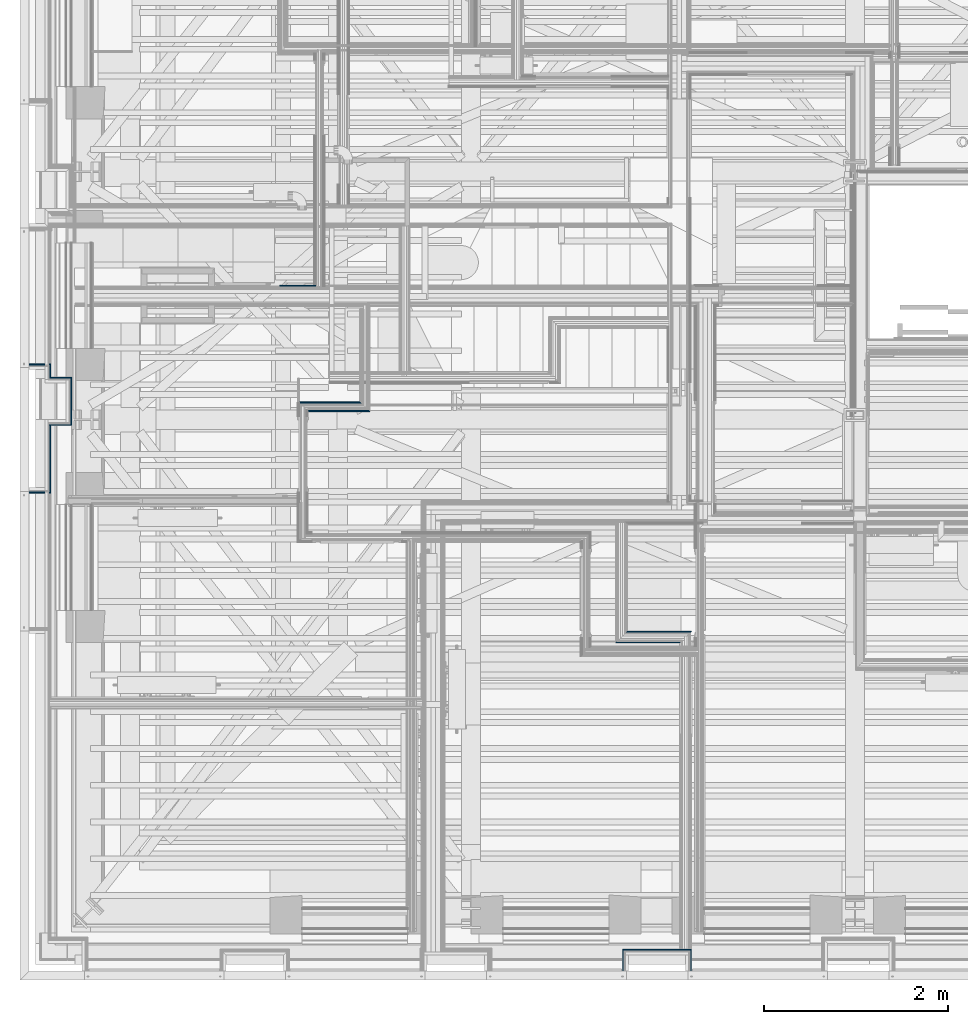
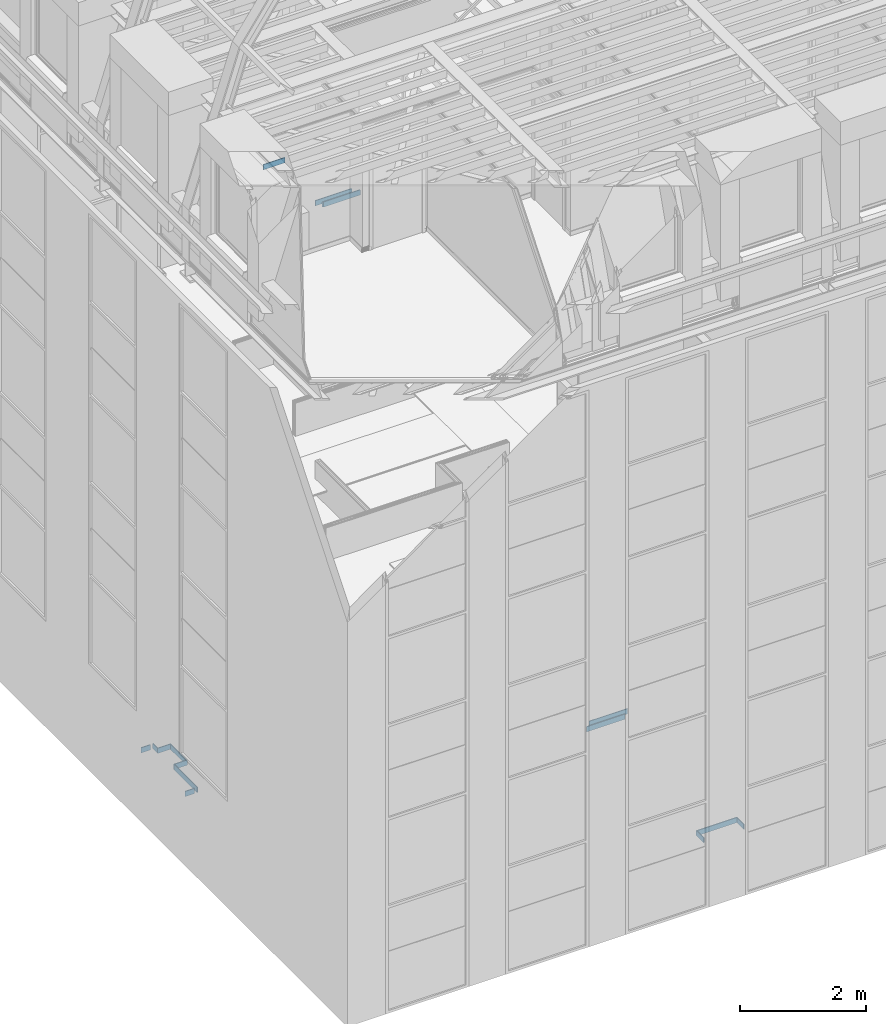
# One storey, part 64 of 183: 16 building element parts, 13 elements without a shape of their own.
"""IFC2X3 building model written with IfcOpenShell, lengths in metres."""

from ifc_helpers import new_model, entity, si_unit, converted_unit, derived_unit, money_unit, direction, frame, frame_2d, origin_with_axes, place, context, subcontext, project, spatial, polyline, rectangle, outline, extrude, material, type_object, element, aggregate, save


model = new_model("IFC2X3")

# Units and contexts
model_context = context("Model", 3, precision=1e-05, world=origin_with_axes(), true_north=direction((0.0, 1.0)))
body_context = subcontext(model_context, "Body", "Model", "MODEL_VIEW", scale=1.0)
ifc_project = project(units=[si_unit("LENGTHUNIT", "METRE"), si_unit("AREAUNIT", "SQUARE_METRE"), si_unit("VOLUMEUNIT", "CUBIC_METRE"), si_unit("ABSORBEDDOSEUNIT", "GRAY"), si_unit("AMOUNTOFSUBSTANCEUNIT", "MOLE"), si_unit("DOSEEQUIVALENTUNIT", "SIEVERT"), si_unit("ELECTRICCAPACITANCEUNIT", "FARAD"), si_unit("ELECTRICCHARGEUNIT", "COULOMB"), si_unit("ELECTRICCONDUCTANCEUNIT", "SIEMENS"), si_unit("ELECTRICCURRENTUNIT", "AMPERE"), si_unit("ELECTRICRESISTANCEUNIT", "OHM"), si_unit("ELECTRICVOLTAGEUNIT", "VOLT"), si_unit("ENERGYUNIT", "JOULE"), si_unit("FORCEUNIT", "NEWTON"), si_unit("FREQUENCYUNIT", "HERTZ"), si_unit("ILLUMINANCEUNIT", "LUX"), si_unit("INDUCTANCEUNIT", "HENRY"), si_unit("LUMINOUSFLUXUNIT", "LUMEN"), si_unit("LUMINOUSINTENSITYUNIT", "CANDELA"), si_unit("MAGNETICFLUXDENSITYUNIT", "TESLA"), si_unit("MAGNETICFLUXUNIT", "WEBER"), si_unit("MASSUNIT", "GRAM"), converted_unit("PLANEANGLEUNIT", "degree", entity("IfcReal", 0.0174532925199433), si_unit("PLANEANGLEUNIT", "RADIAN"), dimensions=[0, 0, 0, 0, 0, 0, 0]), si_unit("POWERUNIT", "WATT"), si_unit("PRESSUREUNIT", "PASCAL"), si_unit("RADIOACTIVITYUNIT", "BECQUEREL"), si_unit("SOLIDANGLEUNIT", "STERADIAN"), si_unit("THERMODYNAMICTEMPERATUREUNIT", "KELVIN"), si_unit("TIMEUNIT", "SECOND"), derived_unit("ACCELERATIONUNIT", [(si_unit("LENGTHUNIT", "METRE"), 1), (si_unit("TIMEUNIT", "SECOND"), -2)]), derived_unit("ANGULARVELOCITYUNIT", [(converted_unit("PLANEANGLEUNIT", "degree", entity("IfcReal", 0.0174532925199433), si_unit("PLANEANGLEUNIT", "RADIAN"), dimensions=[0, 0, 0, 0, 0, 0, 0]), 1), (si_unit("TIMEUNIT", "SECOND"), -1)]), derived_unit("CURVATUREUNIT", [(converted_unit("PLANEANGLEUNIT", "degree", entity("IfcReal", 0.0174532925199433), si_unit("PLANEANGLEUNIT", "RADIAN"), dimensions=[0, 0, 0, 0, 0, 0, 0]), 1), (si_unit("LENGTHUNIT", "METRE"), -1)]), derived_unit("DYNAMICVISCOSITYUNIT", [(si_unit("PRESSUREUNIT", "PASCAL"), 1), (si_unit("TIMEUNIT", "SECOND"), 1)]), derived_unit("HEATFLUXDENSITYUNIT", [(si_unit("POWERUNIT", "WATT"), 1), (si_unit("LENGTHUNIT", "METRE"), -2)]), derived_unit("HEATINGVALUEUNIT", [(si_unit("ENERGYUNIT", "JOULE"), 1), (si_unit("MASSUNIT", "GRAM"), -1)]), derived_unit("INTEGERCOUNTRATEUNIT", [(si_unit("TIMEUNIT", "SECOND"), -1)]), derived_unit("IONCONCENTRATIONUNIT", [(si_unit("MASSUNIT", "GRAM"), 1), (si_unit("VOLUMEUNIT", "CUBIC_METRE"), -1)]), derived_unit("ISOTHERMALMOISTURECAPACITYUNIT", [(si_unit("VOLUMEUNIT", "CUBIC_METRE"), 1), (si_unit("MASSUNIT", "GRAM"), -1)]), derived_unit("KINEMATICVISCOSITYUNIT", [(si_unit("AREAUNIT", "SQUARE_METRE"), 1), (si_unit("TIMEUNIT", "SECOND"), -1)]), derived_unit("LINEARFORCEUNIT", [(si_unit("FORCEUNIT", "NEWTON"), 1), (si_unit("LENGTHUNIT", "METRE"), -1)]), derived_unit("LINEARMOMENTUNIT", [(si_unit("FORCEUNIT", "NEWTON"), 1), (si_unit("LENGTHUNIT", "METRE"), -1)]), derived_unit("LINEARSTIFFNESSUNIT", [(si_unit("FORCEUNIT", "NEWTON"), 1), (si_unit("LENGTHUNIT", "METRE"), -1)]), derived_unit("LINEARVELOCITYUNIT", [(si_unit("LENGTHUNIT", "METRE"), 1), (si_unit("TIMEUNIT", "SECOND"), -1)]), derived_unit("LUMINOUSINTENSITYDISTRIBUTIONUNIT", [(si_unit("LUMINOUSINTENSITYUNIT", "CANDELA"), 1), (si_unit("LUMINOUSFLUXUNIT", "LUMEN"), -1)]), derived_unit("MASSDENSITYUNIT", [(si_unit("MASSUNIT", "GRAM"), 1), (si_unit("VOLUMEUNIT", "CUBIC_METRE"), -1)]), derived_unit("MASSFLOWRATEUNIT", [(si_unit("MASSUNIT", "GRAM"), 1), (si_unit("TIMEUNIT", "SECOND"), -1)]), derived_unit("MASSPERLENGTHUNIT", [(si_unit("MASSUNIT", "GRAM"), 1), (si_unit("LENGTHUNIT", "METRE"), -1)]), derived_unit("MODULUSOFELASTICITYUNIT", [(si_unit("FORCEUNIT", "NEWTON"), 1), (si_unit("AREAUNIT", "SQUARE_METRE"), -1)]), derived_unit("MODULUSOFLINEARSUBGRADEREACTIONUNIT", [(si_unit("FORCEUNIT", "NEWTON"), 1), (si_unit("LENGTHUNIT", "METRE"), -2)]), derived_unit("MODULUSOFROTATIONALSUBGRADEREACTIONUNIT", [(si_unit("FORCEUNIT", "NEWTON"), 1), (si_unit("LENGTHUNIT", "METRE"), 1)]), derived_unit("MODULUSOFSUBGRADEREACTIONUNIT", [(si_unit("FORCEUNIT", "NEWTON"), 1), (si_unit("VOLUMEUNIT", "CUBIC_METRE"), -1)]), derived_unit("MOISTUREDIFFUSIVITYUNIT", [(si_unit("VOLUMEUNIT", "CUBIC_METRE"), 1), (si_unit("TIMEUNIT", "SECOND"), -1)]), derived_unit("MOLECULARWEIGHTUNIT", [(si_unit("MASSUNIT", "GRAM"), 1), (si_unit("AMOUNTOFSUBSTANCEUNIT", "MOLE"), -1)]), derived_unit("PLANARFORCEUNIT", [(si_unit("FORCEUNIT", "NEWTON"), 1), (si_unit("LENGTHUNIT", "METRE"), -2)]), derived_unit("ROTATIONALFREQUENCYUNIT", [(si_unit("TIMEUNIT", "SECOND"), -1)]), derived_unit("ROTATIONALMASSUNIT", [(si_unit("MASSUNIT", "GRAM"), 1), (si_unit("LENGTHUNIT", "METRE"), 2)]), derived_unit("ROTATIONALSTIFFNESSUNIT", [(si_unit("FORCEUNIT", "NEWTON"), 1), (si_unit("LENGTHUNIT", "METRE"), 1), (converted_unit("PLANEANGLEUNIT", "degree", entity("IfcReal", 0.0174532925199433), si_unit("PLANEANGLEUNIT", "RADIAN"), dimensions=[0, 0, 0, 0, 0, 0, 0]), -1)]), derived_unit("SECTIONAREAINTEGRALUNIT", [(si_unit("LENGTHUNIT", "METRE"), 5)]), derived_unit("SECTIONMODULUSUNIT", [(si_unit("LENGTHUNIT", "METRE"), 3)]), derived_unit("SHEARMODULUSUNIT", [(si_unit("FORCEUNIT", "NEWTON"), 1), (si_unit("AREAUNIT", "SQUARE_METRE"), -1)]), derived_unit("SOUNDPOWERUNIT", [(si_unit("ENERGYUNIT", "JOULE"), 1), (si_unit("TIMEUNIT", "SECOND"), -1)]), derived_unit("SPECIFICHEATCAPACITYUNIT", [(si_unit("FORCEUNIT", "NEWTON"), 1), (si_unit("MASSUNIT", "GRAM"), -1), (si_unit("THERMODYNAMICTEMPERATUREUNIT", "KELVIN"), -1)]), derived_unit("TEMPERATUREGRADIENTUNIT", [(si_unit("THERMODYNAMICTEMPERATUREUNIT", "KELVIN"), 1), (si_unit("LENGTHUNIT", "METRE"), -1)]), derived_unit("THERMALADMITTANCEUNIT", [(si_unit("POWERUNIT", "WATT"), 1), (si_unit("AREAUNIT", "SQUARE_METRE"), -1), (si_unit("THERMODYNAMICTEMPERATUREUNIT", "KELVIN"), -1)]), derived_unit("THERMALCONDUCTANCEUNIT", [(si_unit("POWERUNIT", "WATT"), 1), (si_unit("LENGTHUNIT", "METRE"), -1), (si_unit("THERMODYNAMICTEMPERATUREUNIT", "KELVIN"), -1)]), derived_unit("THERMALEXPANSIONCOEFFICIENTUNIT", [(si_unit("THERMODYNAMICTEMPERATUREUNIT", "KELVIN"), -1)]), derived_unit("THERMALRESISTANCEUNIT", [(si_unit("AREAUNIT", "SQUARE_METRE"), 1), (si_unit("POWERUNIT", "WATT"), -1)]), derived_unit("THERMALTRANSMITTANCEUNIT", [(si_unit("POWERUNIT", "WATT"), 1), (si_unit("AREAUNIT", "SQUARE_METRE"), -1), (si_unit("THERMODYNAMICTEMPERATUREUNIT", "KELVIN"), -1)]), derived_unit("TORQUEUNIT", [(si_unit("FORCEUNIT", "NEWTON"), 1), (si_unit("LENGTHUNIT", "METRE"), 1)]), derived_unit("VAPORPERMEABILITYUNIT", [(si_unit("MASSUNIT", "GRAM"), 1), (si_unit("TIMEUNIT", "SECOND"), -1)]), derived_unit("VOLUMETRICFLOWRATEUNIT", [(si_unit("VOLUMEUNIT", "CUBIC_METRE"), 1), (si_unit("TIMEUNIT", "SECOND"), -1)]), derived_unit("WARPINGCONSTANTUNIT", [(si_unit("LENGTHUNIT", "METRE"), 6)]), derived_unit("WARPINGMOMENTUNIT", [(si_unit("FORCEUNIT", "NEWTON"), 1), (si_unit("LENGTHUNIT", "METRE"), 2)]), money_unit("GBP")], contexts=[model_context])

# Site, building, storey
site_placement = place(None, origin_with_axes())
site = spatial("IfcSite", under=ifc_project, at=site_placement, Name="Site", CompositionType="ELEMENT")
building_placement = place(site_placement, origin_with_axes())
building = spatial("IfcBuilding", under=site, at=building_placement, Name="Building01", CompositionType="ELEMENT")
storey_placement = place(building_placement, frame((0.0, 0.0, 5.15), z_axis=(0.0, 0.0, 1.0), x_axis=(1.0, 0.0, 0.0)))
storey = spatial("IfcBuildingStorey", under=building, at=storey_placement, Name="1F", CompositionType="ELEMENT", Elevation=5.15)

# Wall, building element part
wall_type_1 = type_object("IfcWallType", Name="SHE_A-Walls_Type06d_ExternalWallInsulation_48mm", PredefinedType="NOTDEFINED")
wall_1_placement = place(storey_placement, frame((6.623, 0.1, 0.0), z_axis=(0.0, 0.0, 1.0), x_axis=(0.0, 1.0, 0.0)))
wall_1 = element("IfcWall", 1, at=wall_1_placement, inside=storey, type_object=wall_type_1, Name="6D", ObjectType="SHE_A-Walls_Type06d_ExternalWallInsulation_48mm")
ifc_material = material(Name="A_BSUK_Walls_Timber")
building_element_part_1_placement = place(wall_1_placement, origin_with_axes())
building_element_part_1 = element("IfcBuildingElementPart", 2, at=building_element_part_1_placement, material=ifc_material, Name="3", context=body_context, shape_type="SweptSolid", body=[
    extrude(outline(polyline([(0.233, 0.063), (0.0, 0.063), (0.0, 0.048), (0.218, 0.048), (0.233, 0.063)])), frame((0.0, 0.0, 0.015), z_axis=(0.0, 0.0, 1.0), x_axis=(1.0, 0.0, 0.0)), (0.0, 0.0, 1.0), 0.1),
])
aggregate(wall_1, [building_element_part_1])

wall_2_placement = place(storey_placement, frame((7.247, 0.27, 0.0), z_axis=(0.0, 0.0, 1.0), x_axis=(0.0, -1.0, 0.0)))
wall_2 = element("IfcWall", 3, at=wall_2_placement, inside=storey, type_object=wall_type_1, Name="6D", ObjectType="SHE_A-Walls_Type06d_ExternalWallInsulation_48mm")
building_element_part_2_placement = place(wall_2_placement, origin_with_axes())
building_element_part_2 = element("IfcBuildingElementPart", 4, at=building_element_part_2_placement, material=ifc_material, Name="3", context=body_context, shape_type="SweptSolid", body=[
    extrude(outline(polyline([(-0.063, 0.063), (-0.048, 0.048), (0.17, 0.048), (0.17, 0.063), (-0.063, 0.063)])), frame((0.0, 0.0, 0.015), z_axis=(0.0, 0.0, 1.0), x_axis=(1.0, 0.0, 0.0)), (0.0, 0.0, 1.0), 0.1),
])
aggregate(wall_2, [building_element_part_2])

# Wall, building element parts
wall_type_2 = type_object("IfcWallType", Name="SHE_A-Walls_Type05a_Partition_95mm_tall", PredefinedType="NOTDEFINED")
wall_3_placement = place(storey_placement, frame((7.235, 3.72, 0.0), z_axis=(0.0, 0.0, 1.0), x_axis=(-1.0, 0.0, 0.0)))
wall_3 = element("IfcWall", 5, at=wall_3_placement, inside=storey, type_object=wall_type_2, Name="5A", ObjectType="SHE_A-Walls_Type05a_Partition_95mm_tall")
placement_1 = place(wall_3_placement, origin_with_axes())
building_element_part_3 = element("IfcBuildingElementPart", 6, at=placement_1, material=ifc_material, Name="1", context=body_context, shape_type="SweptSolid", body=[
    extrude(outline(polyline([(0.64, -0.06), (-0.06, -0.06), (-0.075, -0.075), (0.625, -0.075), (0.64, -0.06)])), frame((0.0, 0.0, 0.015), z_axis=(0.0, 0.0, 1.0), x_axis=(1.0, 0.0, 0.0)), (0.0, 0.0, 1.0), 0.1),
])
building_element_part_4 = element("IfcBuildingElementPart", 7, at=placement_1, material=ifc_material, Name="7", context=body_context, shape_type="SweptSolid", body=[
    extrude(outline(polyline([(0.75, 0.05), (0.05, 0.05), (0.035, 0.035), (0.735, 0.035), (0.75, 0.05)])), frame((0.0, 0.0, 0.015), z_axis=(0.0, 0.0, 1.0), x_axis=(1.0, 0.0, 0.0)), (0.0, 0.0, 1.0), 0.1),
])
aggregate(wall_3, [building_element_part_3, building_element_part_4])

# Wall, building element part
wall_4_placement = place(storey_placement, frame((6.587, 0.27, 0.0), z_axis=(0.0, 0.0, 1.0), x_axis=(1.0, 0.0, 0.0)))
wall_4 = element("IfcWall", 8, at=wall_4_placement, inside=storey, type_object=wall_type_1, Name="6D", ObjectType="SHE_A-Walls_Type06d_ExternalWallInsulation_48mm")
building_element_part_5_placement = place(wall_4_placement, origin_with_axes())
building_element_part_5 = element("IfcBuildingElementPart", 9, at=building_element_part_5_placement, material=ifc_material, Name="3", context=body_context, shape_type="SweptSolid", body=[
    extrude(outline(polyline([(0.723, 0.063), (-0.027, 0.063), (-0.012, 0.048), (0.708, 0.048), (0.723, 0.063)])), frame((0.0, 0.0, 0.015), z_axis=(0.0, 0.0, 1.0), x_axis=(1.0, 0.0, 0.0)), (0.0, 0.0, 1.0), 0.1),
])
aggregate(wall_4, [building_element_part_5])

wall_5_placement = place(storey_placement, frame((0.27, 6.68018, 0.0), z_axis=(0.0, 0.0, 1.0), x_axis=(0.0, -1.0, 0.0)))
wall_5 = element("IfcWall", 10, at=wall_5_placement, inside=storey, type_object=wall_type_1, Name="6D", ObjectType="SHE_A-Walls_Type06d_ExternalWallInsulation_48mm")
building_element_part_6_placement = place(wall_5_placement, origin_with_axes())
building_element_part_6 = element("IfcBuildingElementPart", 11, at=building_element_part_6_placement, material=ifc_material, Name="3", context=body_context, shape_type="SweptSolid", body=[
    extrude(outline(polyline([(0.11718, 0.063), (-0.027, 0.063), (-0.027, 0.048), (0.13218, 0.048), (0.11718, 0.063)])), frame((0.0, 0.0, 0.015), z_axis=(0.0, 0.0, 1.0), x_axis=(1.0, 0.0, 0.0)), (0.0, 0.0, 1.0), 0.1),
])
aggregate(wall_5, [building_element_part_6])

wall_6_placement = place(storey_placement, frame((0.27, 6.64418, 0.0), z_axis=(0.0, 0.0, 1.0), x_axis=(-1.0, 0.0, 0.0)))
wall_6 = element("IfcWall", 12, at=wall_6_placement, inside=storey, type_object=wall_type_1, Name="6D", ObjectType="SHE_A-Walls_Type06d_ExternalWallInsulation_48mm")
building_element_part_7_placement = place(wall_6_placement, origin_with_axes())
building_element_part_7 = element("IfcBuildingElementPart", 13, at=building_element_part_7_placement, material=ifc_material, Name="1", context=body_context, shape_type="SweptSolid", body=[
    extrude(rectangle(XDim=0.17, YDim=0.015, at=frame_2d((0.085, -0.0555), x_axis=(1.0, 0.0))), frame((0.0, 0.0, 0.015), z_axis=(0.0, 0.0, 1.0), x_axis=(1.0, 0.0, 0.0)), (0.0, 0.0, 1.0), 0.1),
])
aggregate(wall_6, [building_element_part_7])

wall_7_placement = place(storey_placement, frame((0.27, 6.5, 0.0), z_axis=(0.0, 0.0, 1.0), x_axis=(1.0, 0.0, 0.0)))
wall_7 = element("IfcWall", 14, at=wall_7_placement, inside=storey, type_object=wall_type_1, Name="6D", ObjectType="SHE_A-Walls_Type06d_ExternalWallInsulation_48mm")
building_element_part_8_placement = place(wall_7_placement, origin_with_axes())
building_element_part_8 = element("IfcBuildingElementPart", 15, at=building_element_part_8_placement, material=ifc_material, Name="3", context=body_context, shape_type="SweptSolid", body=[
    extrude(outline(polyline([(0.293, 0.063), (0.063, 0.063), (0.048, 0.048), (0.278, 0.048), (0.293, 0.063)])), frame((0.0, 0.0, 0.015), z_axis=(0.0, 0.0, 1.0), x_axis=(1.0, 0.0, 0.0)), (0.0, 0.0, 1.0), 0.1),
])
aggregate(wall_7, [building_element_part_8])

wall_8_placement = place(storey_placement, frame((0.5, 6.536, 0.0), z_axis=(0.0, 0.0, 1.0), x_axis=(0.0, -1.0, 0.0)))
wall_8 = element("IfcWall", 16, at=wall_8_placement, inside=storey, type_object=wall_type_1, Name="6D", ObjectType="SHE_A-Walls_Type06d_ExternalWallInsulation_48mm")
building_element_part_9_placement = place(wall_8_placement, origin_with_axes())
building_element_part_9 = element("IfcBuildingElementPart", 17, at=building_element_part_9_placement, material=ifc_material, Name="3", context=body_context, shape_type="SweptSolid", body=[
    extrude(outline(polyline([(0.499, 0.063), (-0.027, 0.063), (-0.012, 0.048), (0.484, 0.048), (0.499, 0.063)])), frame((0.0, 0.0, 0.015), z_axis=(0.0, 0.0, 1.0), x_axis=(1.0, 0.0, 0.0)), (0.0, 0.0, 1.0), 0.1),
])
aggregate(wall_8, [building_element_part_9])

wall_9_placement = place(storey_placement, frame((0.5, 6.1, 0.0), z_axis=(0.0, 0.0, 1.0), x_axis=(-1.0, 0.0, 0.0)))
wall_9 = element("IfcWall", 18, at=wall_9_placement, inside=storey, type_object=wall_type_1, Name="6D", ObjectType="SHE_A-Walls_Type06d_ExternalWallInsulation_48mm")
building_element_part_10_placement = place(wall_9_placement, origin_with_axes())
building_element_part_10 = element("IfcBuildingElementPart", 19, at=building_element_part_10_placement, material=ifc_material, Name="3", context=body_context, shape_type="SweptSolid", body=[
    extrude(outline(polyline([(0.182, 0.063), (-0.063, 0.063), (-0.048, 0.048), (0.182, 0.048), (0.182, 0.063)])), frame((0.0, 0.0, 0.015), z_axis=(0.0, 0.0, 1.0), x_axis=(1.0, 0.0, 0.0)), (0.0, 0.0, 1.0), 0.1),
])
aggregate(wall_9, [building_element_part_10])

wall_10_placement = place(storey_placement, frame((0.27, 6.1, 0.0), z_axis=(0.0, 0.0, 1.0), x_axis=(0.0, -1.0, 0.0)))
wall_10 = element("IfcWall", 20, at=wall_10_placement, inside=storey, type_object=wall_type_1, Name="6D", ObjectType="SHE_A-Walls_Type06d_ExternalWallInsulation_48mm")
building_element_part_11_placement = place(wall_10_placement, origin_with_axes())
building_element_part_11 = element("IfcBuildingElementPart", 21, at=building_element_part_11_placement, material=ifc_material, Name="3", context=body_context, shape_type="SweptSolid", body=[
    extrude(rectangle(XDim=0.737, YDim=0.015, at=frame_2d((0.4315, 0.0555), x_axis=(-1.0, 0.0))), frame((0.0, 0.0, 0.015), z_axis=(0.0, 0.0, 1.0), x_axis=(1.0, 0.0, 0.0)), (0.0, 0.0, 1.0), 0.1),
])
aggregate(wall_10, [building_element_part_11])

wall_11_placement = place(storey_placement, frame((0.27, 5.363, 0.0), z_axis=(0.0, 0.0, 1.0), x_axis=(-1.0, 0.0, 0.0)))
wall_11 = element("IfcWall", 22, at=wall_11_placement, inside=storey, type_object=wall_type_1, Name="6D", ObjectType="SHE_A-Walls_Type06d_ExternalWallInsulation_48mm")
building_element_part_12_placement = place(wall_11_placement, origin_with_axes())
building_element_part_12 = element("IfcBuildingElementPart", 23, at=building_element_part_12_placement, material=ifc_material, Name="3", context=body_context, shape_type="SweptSolid", body=[
    extrude(rectangle(XDim=0.17, YDim=0.015, at=frame_2d((0.085, 0.0555), x_axis=(1.0, 0.0))), frame((0.0, 0.0, 0.015), z_axis=(0.0, 0.0, 1.0), x_axis=(1.0, 0.0, 0.0)), (0.0, 0.0, 1.0), 0.1),
])
aggregate(wall_11, [building_element_part_12])

# Wall, building element parts
wall_type_3 = type_object("IfcWallType", Name="SHE_A-Walls_Type05b_Partition_80mm", PredefinedType="NOTDEFINED")
wall_12_placement = place(storey_placement, frame((3.767111, 6.227939, 9.78), z_axis=(0.0, 0.0, 1.0), x_axis=(-1.0, 0.0, 0.0)))
wall_12 = element("IfcWall", 24, at=wall_12_placement, inside=storey, type_object=wall_type_3, Name="5B", ObjectType="SHE_A-Walls_Type05b_Partition_80mm")
placement_2 = place(wall_12_placement, origin_with_axes())
building_element_part_13 = element("IfcBuildingElementPart", 25, at=placement_2, material=ifc_material, Name="1", context=body_context, shape_type="SweptSolid", body=[
    extrude(outline(polyline([(0.052, -0.052), (0.067, -0.067), (0.727135, -0.067), (0.727135, -0.052), (0.052, -0.052)])), frame((0.0, 0.0, 0.015), z_axis=(0.0, 0.0, 1.0), x_axis=(1.0, 0.0, 0.0)), (0.0, 0.0, 1.0), 0.1),
])
building_element_part_14 = element("IfcBuildingElementPart", 26, at=placement_2, material=ifc_material, Name="7", context=body_context, shape_type="SweptSolid", body=[
    extrude(outline(polyline([(0.632135, 0.043), (-0.043, 0.043), (-0.028, 0.028), (0.647135, 0.028), (0.632135, 0.043)])), frame((0.0, 0.0, 0.015), z_axis=(0.0, 0.0, 1.0), x_axis=(1.0, 0.0, 0.0)), (0.0, 0.0, 1.0), 0.1),
])
aggregate(wall_12, [building_element_part_13, building_element_part_14])

wall_type_4 = type_object("IfcWallType", Name="SHE_A-Walls_Type01d_Partywall_200mm_twin", PredefinedType="NOTDEFINED")
wall_13_placement = place(storey_placement, frame((9.06, 7.425061, 9.78), z_axis=(0.0, 0.0, 1.0), x_axis=(-1.0, 0.0, 0.0)))
wall_13 = element("IfcWall", 27, at=wall_13_placement, inside=storey, type_object=wall_type_4, Name="1D", ObjectType="SHE_A-Walls_Type01d_Partywall_200mm_twin")
placement_3 = place(wall_13_placement, origin_with_axes())
building_element_part_15 = element("IfcBuildingElementPart", 28, at=placement_3, material=ifc_material, Name="1", context=body_context, shape_type="SweptSolid", body=[
    extrude(rectangle(XDim=0.394909, YDim=0.015, at=frame_2d((6.037454, -0.1325), x_axis=(-1.0, 0.0))), frame((0.0, 0.0, 0.015), z_axis=(0.0, 0.0, 1.0), x_axis=(1.0, 0.0, 0.0)), (0.0, 0.0, 1.0), 0.1),
])
building_element_part_16 = element("IfcBuildingElementPart", 29, at=placement_3, material=ifc_material, Name="2", context=body_context, shape_type="SweptSolid", body=[
    extrude(rectangle(XDim=0.394909, YDim=0.015, at=frame_2d((6.037454, -0.1325), x_axis=(-1.0, 0.0))), frame((0.0, 0.0, 0.015), z_axis=(0.0, 0.0, 1.0), x_axis=(1.0, 0.0, 0.0)), (0.0, 0.0, 1.0), 0.1),
])
aggregate(wall_13, [building_element_part_15, building_element_part_16])

save(model, "model.ifc")
